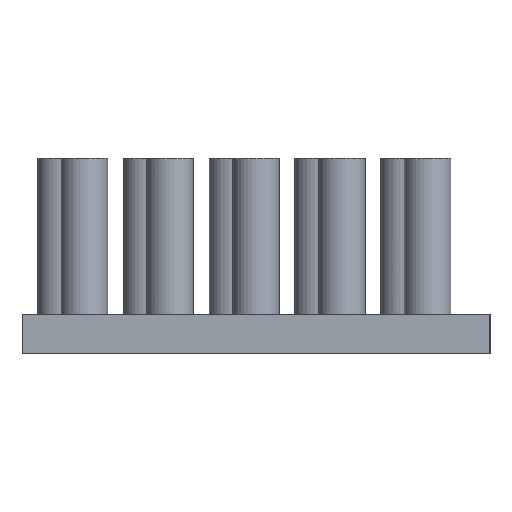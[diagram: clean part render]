
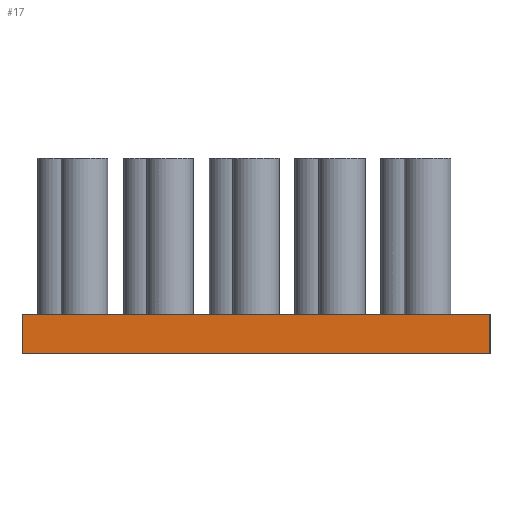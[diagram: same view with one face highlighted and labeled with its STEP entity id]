
A CAD part, left-side view. The second image highlights one B-rep face of the part: STEP entity #17.
In plain terms, the highlighted planar face has unit normal (-1, 0, 0).
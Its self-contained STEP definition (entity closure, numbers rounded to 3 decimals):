
#17 = ADVANCED_FACE('',(#18),#52,.F.);
#18 = FACE_BOUND('',#19,.F.);
#19 = EDGE_LOOP('',(#20,#30,#38,#46));
#20 = ORIENTED_EDGE('',*,*,#21,.F.);
#21 = EDGE_CURVE('',#22,#24,#26,.T.);
#22 = VERTEX_POINT('',#23);
#23 = CARTESIAN_POINT('',(0.,0.,0.));
#24 = VERTEX_POINT('',#25);
#25 = CARTESIAN_POINT('',(0.,0.,5.));
#26 = LINE('',#27,#28);
#27 = CARTESIAN_POINT('',(0.,0.,0.));
#28 = VECTOR('',#29,1.);
#29 = DIRECTION('',(0.,0.,1.));
#30 = ORIENTED_EDGE('',*,*,#31,.T.);
#31 = EDGE_CURVE('',#22,#32,#34,.T.);
#32 = VERTEX_POINT('',#33);
#33 = CARTESIAN_POINT('',(0.,60.,0.));
#34 = LINE('',#35,#36);
#35 = CARTESIAN_POINT('',(0.,0.,0.));
#36 = VECTOR('',#37,1.);
#37 = DIRECTION('',(-0.,1.,0.));
#38 = ORIENTED_EDGE('',*,*,#39,.T.);
#39 = EDGE_CURVE('',#32,#40,#42,.T.);
#40 = VERTEX_POINT('',#41);
#41 = CARTESIAN_POINT('',(0.,60.,5.));
#42 = LINE('',#43,#44);
#43 = CARTESIAN_POINT('',(0.,60.,0.));
#44 = VECTOR('',#45,1.);
#45 = DIRECTION('',(0.,0.,1.));
#46 = ORIENTED_EDGE('',*,*,#47,.F.);
#47 = EDGE_CURVE('',#24,#40,#48,.T.);
#48 = LINE('',#49,#50);
#49 = CARTESIAN_POINT('',(0.,0.,5.));
#50 = VECTOR('',#51,1.);
#51 = DIRECTION('',(-0.,1.,0.));
#52 = PLANE('',#53);
#53 = AXIS2_PLACEMENT_3D('',#54,#55,#56);
#54 = CARTESIAN_POINT('',(0.,0.,0.));
#55 = DIRECTION('',(1.,0.,-0.));
#56 = DIRECTION('',(0.,0.,1.));
